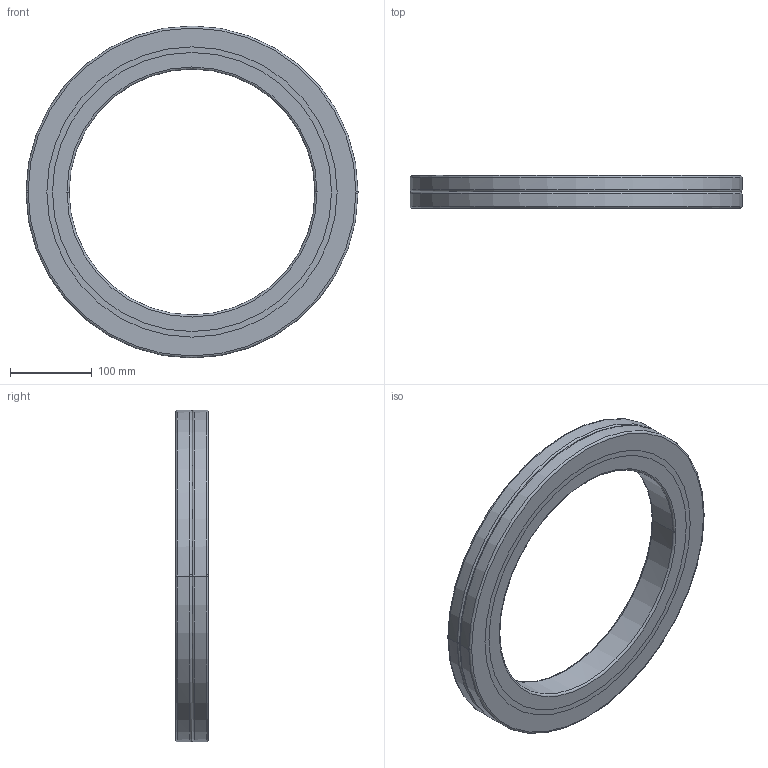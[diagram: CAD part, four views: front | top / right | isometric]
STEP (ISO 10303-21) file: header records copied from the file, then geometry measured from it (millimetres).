
FILE_DESCRIPTION(('no description'),'unknown implementation level');
FILE_NAME('CRBA30040_49.stp',' ',('HIWIN GmbH'),('CADClick - KiM GmbH - www.kimweb.de'),'unknown preprocess','ACIS','unknown authorization');
FILE_SCHEMA(('automotive_design'));
Length unit declared in the file: millimetre
Products named in the file (5): CRBA30040_1; CRBA30040_2; CRBA30040_3; CRBA30040_4; CRBA30040
Bounding box: 405 x 40 x 405 mm (x, y, z)
Volume: 2056617.9 mm3; surface area: 371188.8 mm2
Topology: 5 solids, 5 shells, 54 faces, 120 edges, 76 vertices
Faces by surface type: torus 24, cylinder 20, plane 10
Entity records: 3096 total; most frequent: DIRECTION 338, STYLED_ITEM 255, PRESENTATION_STYLE_ASSIGNMENT 255, CARTESIAN_POINT 255, COLOUR_RGB 255, ORIENTED_EDGE 240, AXIS2_PLACEMENT_3D 159, EDGE_CURVE 120
